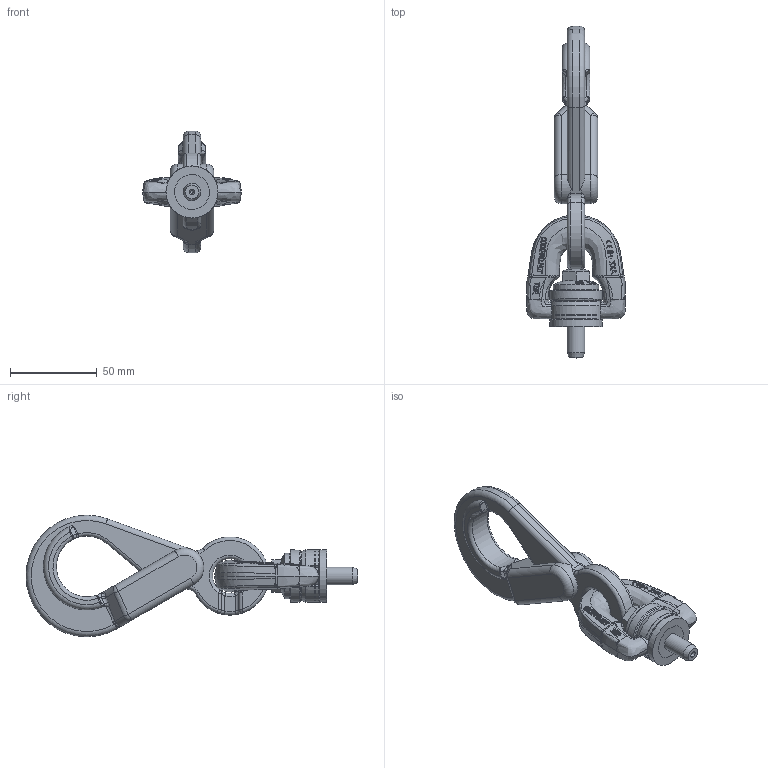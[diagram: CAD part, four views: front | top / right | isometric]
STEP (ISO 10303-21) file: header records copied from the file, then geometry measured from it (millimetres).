
FILE_DESCRIPTION(/* description */ (''),/* implementation_level */ '2;1');
FILE_NAME(/* name */ 'W:\CODIPRO\DOCUMENTS\Plans A NE PAS DIFFUSER !!!\Inventor\Standard Inventor\Produit Fini Inventor\DSH\Fichiers 3D\DSH M10.stp',/* time_stamp */ '2017-10-06T09:08:03+02:00',/* author */ ('rklenes'),/* organization */ (''),/* preprocessor_version */ 'ST-DEVELOPER v16.5',/* originating_system */ 'Autodesk Inventor 2017',/* authorisation */ '');
FILE_SCHEMA (('AUTOMOTIVE_DESIGN { 1 0 10303 214 3 1 1 }'));
Products named in the file (6): DSH M10; TSM_AO1C; DHH_S1; DRB_B1B; DRE_D1M10A; DRA_M10X39
Assembly tree (5 placements, depth 2):
  DSH M10
    TSM_AO1C
    DHH_S1
    DRB_B1B
    DRE_D1M10A
    DRA_M10X39
Bounding box: 57.01 x 191.25 x 70 mm (x, y, z)
Volume: 113093.6 mm3; surface area: 33625.9 mm2
Topology: 5 solids, 5 shells, 844 faces, 2186 edges, 1343 vertices
Faces by surface type: bspline 414, plane 268, cylinder 77, cone 37, torus 35, sphere 13
Full cylindrical faces by diameter (mm): 1.6 x1, 10 x5, 10.2 x1, 14.7 x2, 15 x2, 22 x1, 26 x1, 30 x2
Entity records: 49124 total; most frequent: CARTESIAN_POINT 31407, ORIENTED_EDGE 4186, DIRECTION 2658, EDGE_CURVE 2093, VERTEX_POINT 1334, AXIS2_PLACEMENT_3D 1010, EDGE_LOOP 925, FACE_OUTER_BOUND 843
